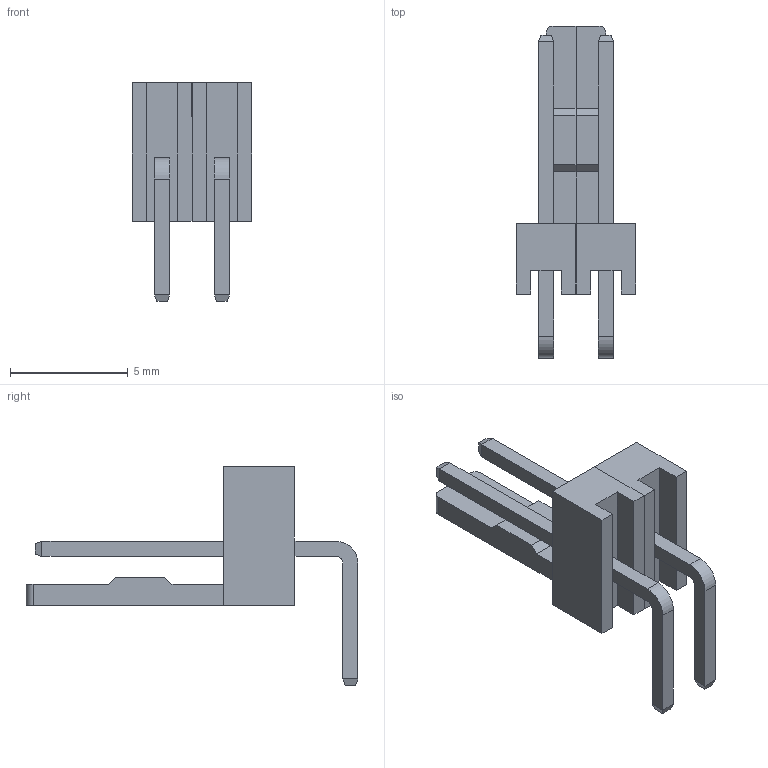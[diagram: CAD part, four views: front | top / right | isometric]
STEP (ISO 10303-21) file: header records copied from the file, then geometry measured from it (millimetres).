
FILE_DESCRIPTION(/* description */ (''),/* implementation_level */ '2;1');
FILE_NAME(/* name */ 'D:\_Work\Altium\AltiumBase\Component''s Body\Inventor\WF\WF-02R.stp',/* time_stamp */ '2020-05-21T11:07:50+03:00',/* author */ ('perevozchikovaa'),/* organization */ (''),/* preprocessor_version */ 'ST-DEVELOPER v17.2',/* originating_system */ 'Autodesk Inventor 2019',/* authorisation */ '');
FILE_SCHEMA (('AUTOMOTIVE_DESIGN { 1 0 10303 214 3 1 1 }'));
Length unit declared in the file: millimetre
Products named in the file (3): Сборка1; WFRl; WFRr
Assembly tree (2 placements, depth 2):
  Сборка1
    WFRl
    WFRr
Bounding box: 5.08 x 14.1 x 9.3 mm (x, y, z)
Volume: 109.3 mm3; surface area: 341.2 mm2
Topology: 2 solids, 2 shells, 80 faces, 200 edges, 128 vertices
Faces by surface type: plane 74, cylinder 6
Entity records: 2549 total; most frequent: CARTESIAN_POINT 413, ORIENTED_EDGE 400, DIRECTION 382, EDGE_CURVE 200, LINE 188, VECTOR 188, VERTEX_POINT 128, AXIS2_PLACEMENT_3D 97
